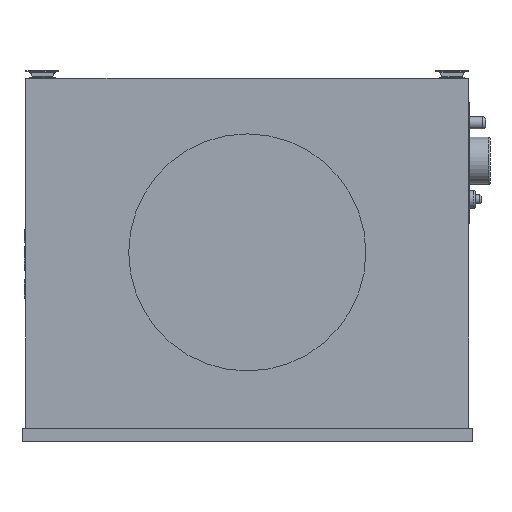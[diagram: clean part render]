
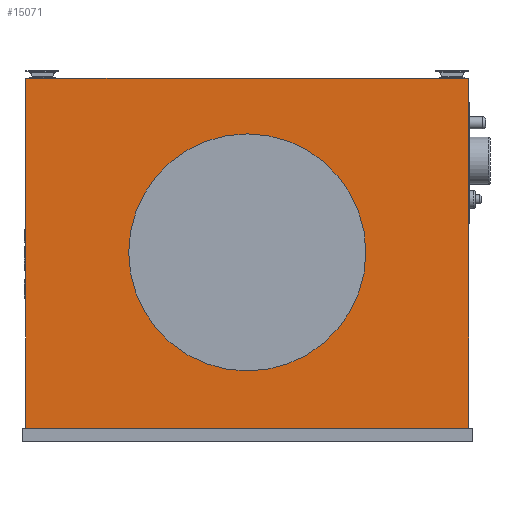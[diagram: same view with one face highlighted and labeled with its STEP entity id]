
A CAD part, front view. The second image highlights one B-rep face of the part: STEP entity #15071.
In plain terms, the highlighted planar face has unit normal (0, -1, 0).
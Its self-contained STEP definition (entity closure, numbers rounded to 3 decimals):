
#177=CIRCLE('',#15673,200.);
#321=FACE_BOUND('',#3081,.T.);
#2225=FACE_OUTER_BOUND('',#3080,.T.);
#3080=EDGE_LOOP('',(#13641,#13642,#13643,#13644));
#3081=EDGE_LOOP('',(#13645));
#4112=LINE('',#26735,#5405);
#4373=LINE('',#31514,#5666);
#4374=LINE('',#31516,#5667);
#4375=LINE('',#31517,#5668);
#5405=VECTOR('',#17212,10.);
#5666=VECTOR('',#18123,10.);
#5667=VECTOR('',#18126,10.);
#5668=VECTOR('',#18127,10.);
#6831=VERTEX_POINT('',#26731);
#6833=VERTEX_POINT('',#26734);
#7124=VERTEX_POINT('',#31497);
#7128=VERTEX_POINT('',#31508);
#7130=VERTEX_POINT('',#31512);
#8862=EDGE_CURVE('',#6831,#6833,#4112,.T.);
#9309=EDGE_CURVE('',#7124,#7124,#177,.T.);
#9316=EDGE_CURVE('',#7128,#7130,#4373,.T.);
#9317=EDGE_CURVE('',#7128,#6831,#4374,.T.);
#9318=EDGE_CURVE('',#6833,#7130,#4375,.T.);
#13641=ORIENTED_EDGE('',*,*,#9317,.F.);
#13642=ORIENTED_EDGE('',*,*,#9316,.T.);
#13643=ORIENTED_EDGE('',*,*,#9318,.F.);
#13644=ORIENTED_EDGE('',*,*,#8862,.F.);
#13645=ORIENTED_EDGE('',*,*,#9309,.T.);
#14050=PLANE('',#15679);
#15071=ADVANCED_FACE('',(#2225,#321),#14050,.T.);
#15673=AXIS2_PLACEMENT_3D('',#31498,#18107,#18108);
#15679=AXIS2_PLACEMENT_3D('',#31515,#18124,#18125);
#17212=DIRECTION('',(0.,0.,1.));
#18107=DIRECTION('center_axis',(0.,1.,0.));
#18108=DIRECTION('ref_axis',(1.,0.,0.));
#18123=DIRECTION('',(0.,0.,1.));
#18124=DIRECTION('center_axis',(0.,-1.,0.));
#18125=DIRECTION('ref_axis',(1.,0.,0.));
#18126=DIRECTION('',(-1.,0.,0.));
#18127=DIRECTION('',(1.,0.,0.));
#26731=CARTESIAN_POINT('',(-493.236,-56.712,-284.));
#26734=CARTESIAN_POINT('',(-493.236,-56.712,306.));
#26735=CARTESIAN_POINT('',(-493.236,-56.712,-284.));
#31497=CARTESIAN_POINT('',(-319.736,-56.712,12.5));
#31498=CARTESIAN_POINT('Origin',(-119.736,-56.712,12.5));
#31508=CARTESIAN_POINT('',(253.764,-56.712,-284.));
#31512=CARTESIAN_POINT('',(253.764,-56.712,306.));
#31514=CARTESIAN_POINT('',(253.764,-56.712,-284.));
#31515=CARTESIAN_POINT('Origin',(-493.236,-56.712,-284.));
#31516=CARTESIAN_POINT('',(-306.486,-56.712,-284.));
#31517=CARTESIAN_POINT('',(-493.236,-56.712,306.));
